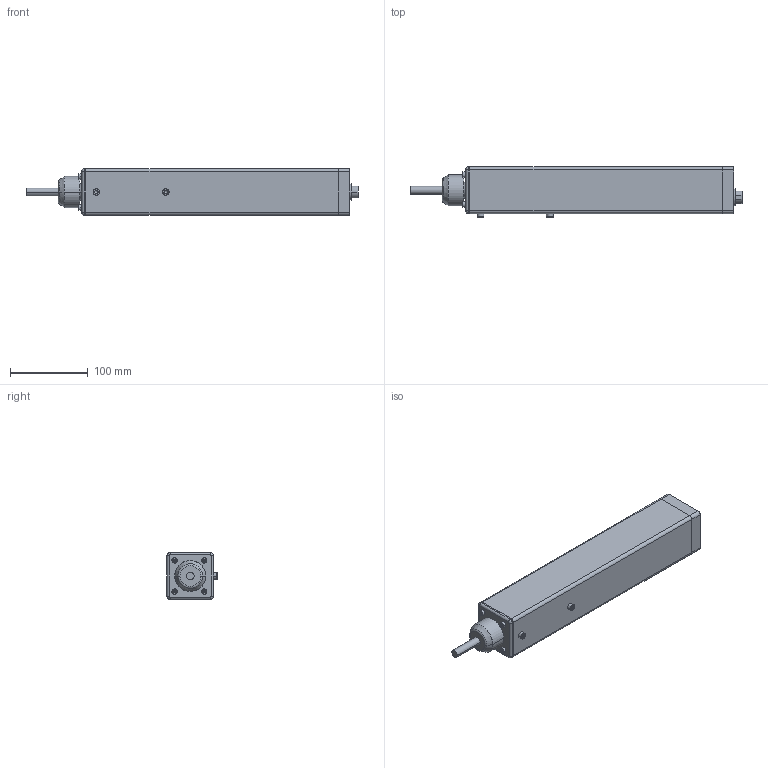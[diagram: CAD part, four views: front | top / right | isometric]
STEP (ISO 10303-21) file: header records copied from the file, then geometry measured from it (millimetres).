
FILE_DESCRIPTION(/* description */ ('VariCAD 2014-2.05 AP-214'),/* implementation_level */ '2;1');
FILE_NAME(/* name */ 'ANT93Antrieb.stp',/* time_stamp */ '2016-03-04T19:48:03+01:00',/* author */ (''),/* organization */ (''),/* preprocessor_version */ 'ST-DEVELOPER v14',/* originating_system */ 'VariCAD 2014-2.05; kernel version (20130303)',/* authorisation */ '');
FILE_SCHEMA (('AUTOMOTIVE_DESIGN'));
Products named in the file (53): ANT93Antrieb; Schraube M4x25; Schraube M4x20; Schraube M5x16
Assembly tree (52 placements, depth 2):
  ANT93Antrieb
    (unnamed)
    (unnamed)
    (unnamed)
    (unnamed)
    (unnamed)
    (unnamed)
    (unnamed)
    (unnamed)
    (unnamed)
    (unnamed)
    (unnamed)
    (unnamed)
    (unnamed)
    (unnamed)
    (unnamed)
    (unnamed)
    (unnamed)
    (unnamed)
    (unnamed)
    (unnamed)
    (unnamed)
    (unnamed)
    Schraube M4x25
    Schraube M4x25
    Schraube M4x25
    Schraube M4x20
    (unnamed)
    Schraube M5x16
    Schraube M5x16
    Schraube M5x16
    (unnamed)
    Schraube M5x16
    Schraube M5x16
    Schraube M5x16
    (unnamed)
    (unnamed)
    (unnamed)
    (unnamed)
    (unnamed)
    (unnamed)
    (unnamed)
    (unnamed)
    (unnamed)
    (unnamed)
    (unnamed)
    (unnamed)
    (unnamed)
    (unnamed)
    (unnamed)
    (unnamed)
    (unnamed)
    (unnamed)
Bounding box: 426.36 x 64.5 x 60 mm (x, y, z)
Volume: 633206.2 mm3; surface area: 318636 mm2
Topology: 65 solids, 69 shells, 3722 faces, 10411 edges, 6813 vertices
Faces by surface type: plane 2970, cylinder 502, cone 142, sphere 64, torus 44
Entity records: 120424 total; most frequent: CARTESIAN_POINT 21891, ORIENTED_EDGE 20670, DIRECTION 19230, EDGE_CURVE 10335, LINE 8934, VECTOR 8934, VERTEX_POINT 6813, AXIS2_PLACEMENT_3D 5148
